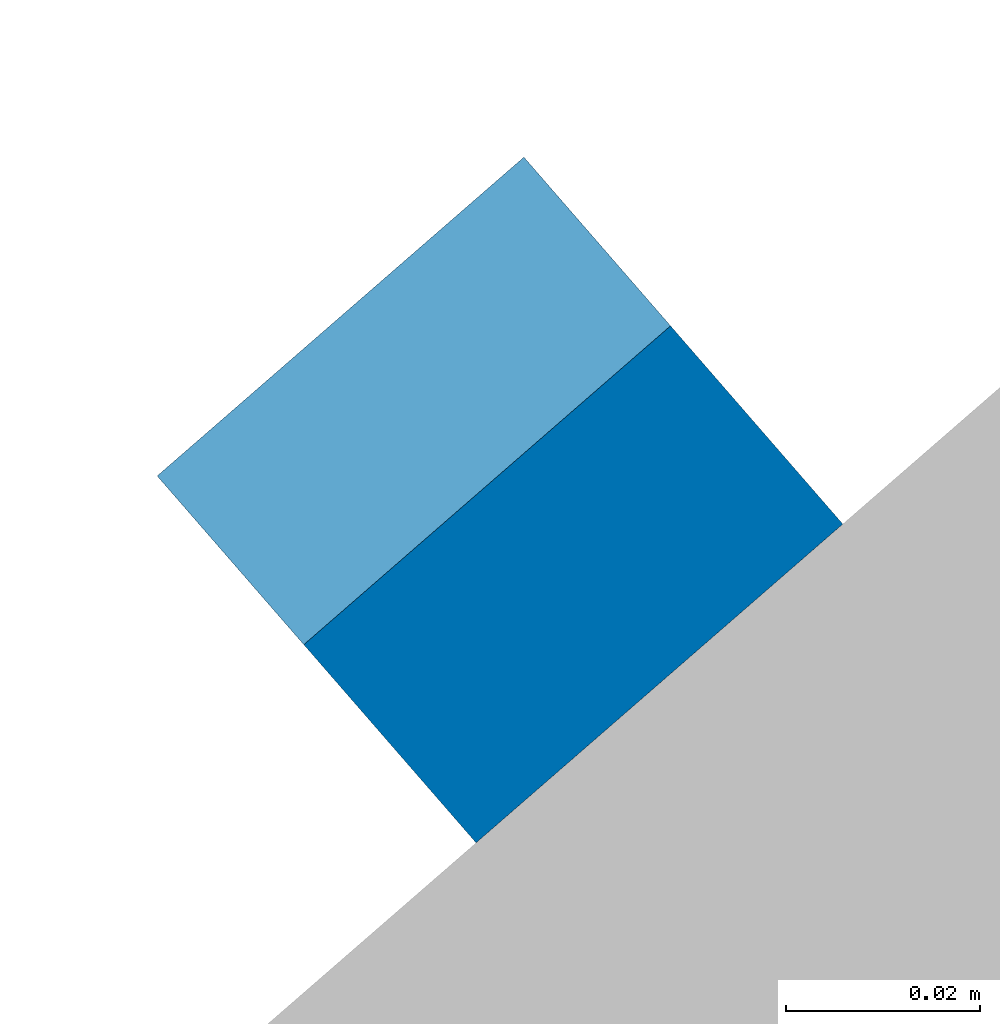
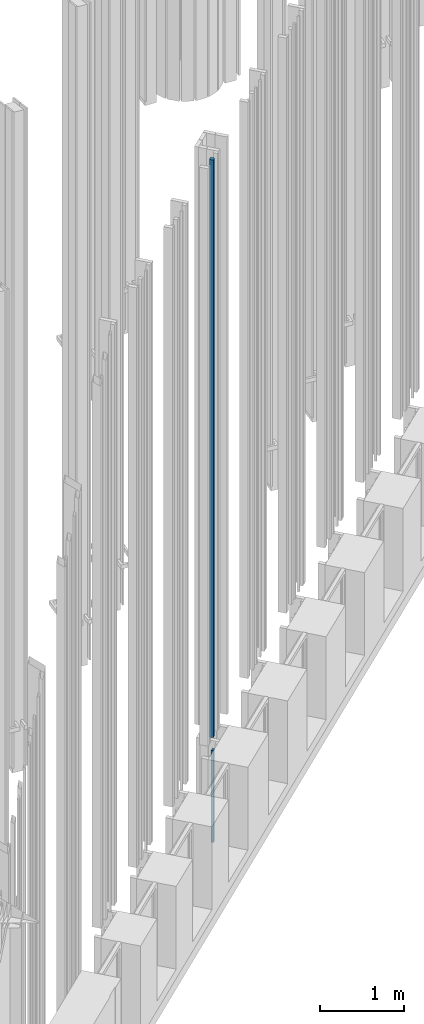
# One storey, part 237 of 390: 2 walls.
"""IFC2X3 building model written with IfcOpenShell, lengths in millimetres."""

from ifc_helpers import new_model, entity, si_unit, converted_unit, derived_unit, money_unit, direction, frame, origin_with_axes, place, context, subcontext, project, spatial, faceted_brep, material, type_object, element, save


model = new_model("IFC2X3")

# Units and contexts
model_context = context("Model", 3, precision=1e-05, world=origin_with_axes(), true_north=direction((0.0, 1.0)))
body_context = subcontext(model_context, "Body", "Model", "MODEL_VIEW")
ifc_project = project(units=[si_unit("LENGTHUNIT", "METRE", prefix="MILLI"), si_unit("AREAUNIT", "SQUARE_METRE"), si_unit("VOLUMEUNIT", "CUBIC_METRE"), converted_unit("PLANEANGLEUNIT", "DEGREE", entity("IfcPlaneAngleMeasure", 0.0174532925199), si_unit("PLANEANGLEUNIT", "RADIAN"), dimensions=[0, 0, 0, 0, 0, 0, 0]), si_unit("SOLIDANGLEUNIT", "STERADIAN"), money_unit("EUR"), converted_unit("TIMEUNIT", "Year", entity("IfcTimeMeasure", 31556926.0), si_unit("TIMEUNIT", "SECOND"), dimensions=[0, 0, 1, 0, 0, 0, 0]), si_unit("MASSUNIT", "GRAM", prefix="KILO"), si_unit("THERMODYNAMICTEMPERATUREUNIT", "DEGREE_CELSIUS"), si_unit("LUMINOUSINTENSITYUNIT", "LUMEN"), si_unit("ENERGYUNIT", "JOULE", prefix="MEGA"), derived_unit("THERMALCONDUCTANCEUNIT", [(si_unit("POWERUNIT", "WATT"), 1), (si_unit("LENGTHUNIT", "METRE"), -1), (si_unit("THERMODYNAMICTEMPERATUREUNIT", "KELVIN"), -1)]), derived_unit("SPECIFICHEATCAPACITYUNIT", [(si_unit("ENERGYUNIT", "JOULE"), 1), (si_unit("MASSUNIT", "GRAM", prefix="KILO"), -1), (si_unit("THERMODYNAMICTEMPERATUREUNIT", "KELVIN"), -1)]), derived_unit("MASSDENSITYUNIT", [(si_unit("MASSUNIT", "GRAM", prefix="KILO"), 1), (si_unit("VOLUMEUNIT", "CUBIC_METRE"), -1)])], contexts=[model_context])

# Site, building, storey
site_placement = place(None, origin_with_axes())
site = spatial("IfcSite", under=ifc_project, at=site_placement, Name="Site", CompositionType="ELEMENT")
building_placement = place(site_placement, origin_with_axes())
building = spatial("IfcBuilding", under=site, at=building_placement, Name="Building", CompositionType="ELEMENT")
storey_placement = place(building_placement, origin_with_axes())
storey = spatial("IfcBuildingStorey", under=building, at=storey_placement, Name="1 korrus", CompositionType="ELEMENT", Elevation=0.0)

# Walls
ifc_material = material(Name="Site specified")
wall_type = type_object("IfcWallType", Name="Puitfassaadi ribistik", PredefinedType="NOTDEFINED")
wall_1_placement = place(storey_placement, frame((142123.223327, 93582.2489621, 1518.28178601), z_axis=(0.0, 0.0, 1.0), x_axis=(0.754709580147, 0.656059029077, 0.0)))
element("IfcWall", 1, at=wall_1_placement, inside=storey, type_object=wall_type, material=ifc_material, Name="Site specified", context=body_context, shape_type="Brep", body=[
    faceted_brep([(25.0, 25.0, 8346.71821399), (25.0, 25.0, 0.0), (-25.0, 25.0, 0.0), (-25.0, 25.0, 8346.71821399), (25.0, -25.0, 8346.71821399), (25.0, -25.0, 0.0), (-25.0, -25.0, 0.0), (-25.0, -25.0, 8346.71821399)], [[[0, 1, 2, 3]], [[4, 5, 1, 0]], [[2, 1, 5, 6]], [[3, 2, 6, 7]], [[4, 0, 3, 7]], [[7, 6, 5, 4]]]),
])
wall_2_placement = place(storey_placement, frame((142138.312684, 93564.8906414, 0.0), z_axis=(0.0, 0.0, 1.0), x_axis=(0.754709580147, 0.656059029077, 0.0)))
element("IfcWall", 2, at=wall_2_placement, inside=storey, type_object=wall_type, material=ifc_material, Name="Site specified", context=body_context, shape_type="Brep", body=[
    faceted_brep([(-25.0, 25.0, 1330.0), (-25.0, -2.01516707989, 1330.0), (25.0000000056, -2.01528549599, 1330.0), (25.0, 25.0, 1330.0), (-25.0, 25.0, 0.0), (-25.0, -2.01757168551, 0.0), (25.0, -2.01768488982, 0.0), (25.0, 25.0, 0.0)], [[[0, 1, 2, 3]], [[4, 5, 1, 0]], [[5, 6, 2, 1]], [[3, 2, 6, 7]], [[0, 3, 7, 4]], [[7, 6, 5, 4]]]),
])

save(model, "model.ifc")
